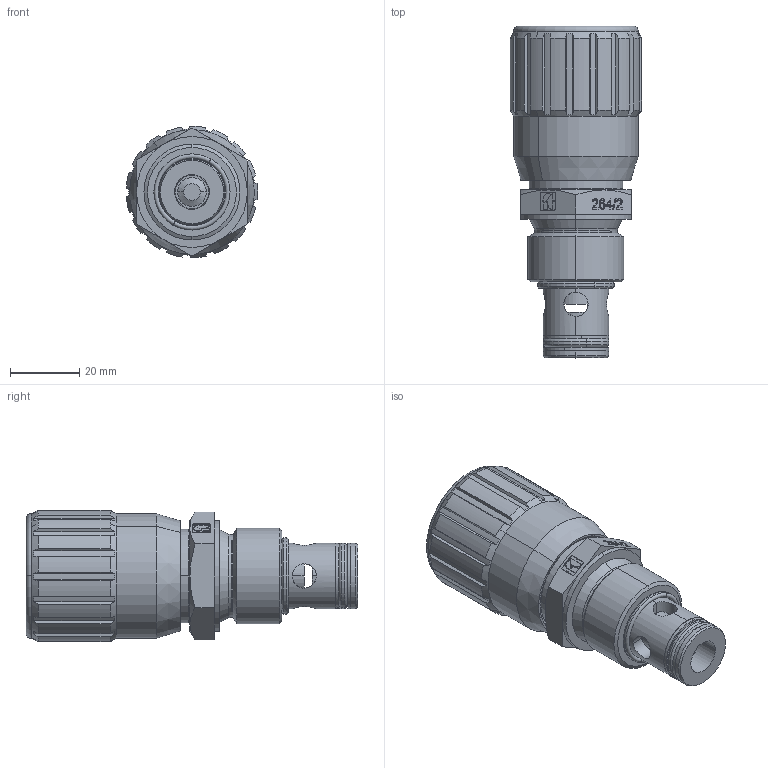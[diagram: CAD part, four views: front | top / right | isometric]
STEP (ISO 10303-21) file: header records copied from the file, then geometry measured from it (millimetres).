
FILE_DESCRIPTION (( 'STEP AP214' ), '1' );
FILE_NAME ('Assieme 264-2-manopola.STEP', '2014-03-20T20:05:46', ( '' ), ( '' ), 'SwSTEP 2.0', 'SolidWorks 2012', '' );
FILE_SCHEMA (( 'AUTOMOTIVE_DESIGN' ));
Length unit declared in the file: millimetre
Products named in the file (1): Assieme 264-2-manopola
Bounding box: 37.96 x 95.82 x 37.99 mm (x, y, z)
Surface area: 20591.8 mm2 (no closed solid volume)
Topology: 0 solids, 12 shells, 375 faces, 1213 edges, 811 vertices
Faces by surface type: plane 196, cylinder 100, cone 33, bspline 30, torus 16
Entity records: 19995 total; most frequent: CARTESIAN_POINT 5598, ORIENTED_EDGE 2068, DIRECTION 1988, EDGE_CURVE 1213, VERTEX_POINT 811, VECTOR 738, LINE 738, AXIS2_PLACEMENT_3D 625
